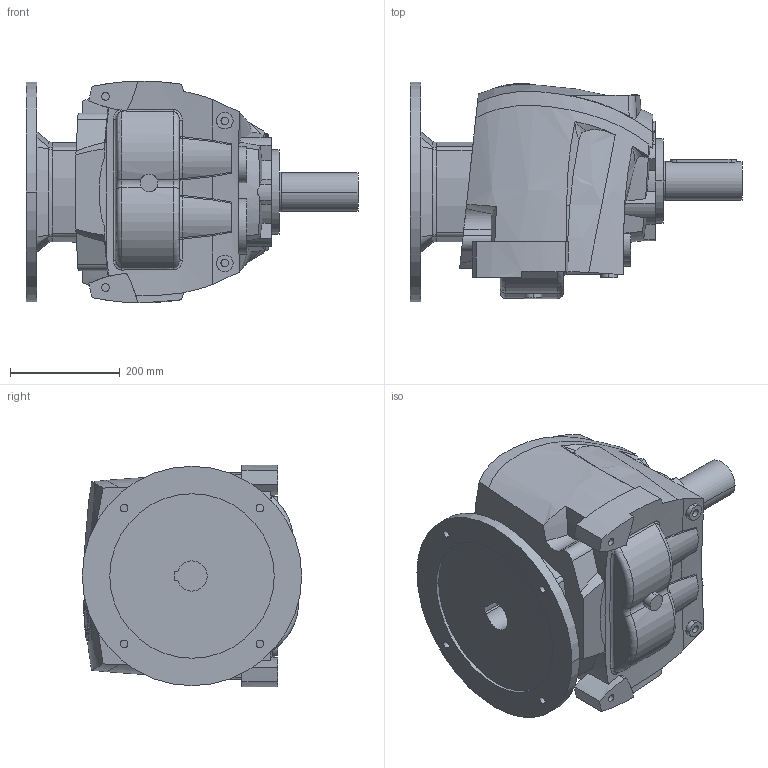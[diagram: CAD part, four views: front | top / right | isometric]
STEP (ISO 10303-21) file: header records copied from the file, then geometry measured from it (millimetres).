
FILE_DESCRIPTION((''),'2;1');
FILE_NAME('R60_UNV_PAM200_D2','2013-12-23T',('Luca'),(''),'PRO/ENGINEER BY PARAMETRIC TECHNOLOGY CORPORATION, 2008230','PRO/ENGINEER BY PARAMETRIC TECHNOLOGY CORPORATION, 2008230','');
FILE_SCHEMA(('CONFIG_CONTROL_DESIGN'));
Length unit declared in the file: millimetre
Products named in the file (1): R60_UNV_PAM200_D2
Bounding box: 605.5 x 400 x 404.24 mm (x, y, z)
Volume: 41137698.9 mm3; surface area: 1015935.1 mm2
Topology: 1 solids, 1 shells, 440 faces, 1169 edges, 770 vertices
Faces by surface type: plane 164, cylinder 144, bspline 100, torus 14, cone 13, sphere 4, extrusion 1
Entity records: 19271 total; most frequent: CARTESIAN_POINT 9214, ORIENTED_EDGE 2334, DIRECTION 1673, EDGE_CURVE 1167, VERTEX_POINT 770, AXIS2_PLACEMENT_3D 605, EDGE_LOOP 489, VECTOR 463
